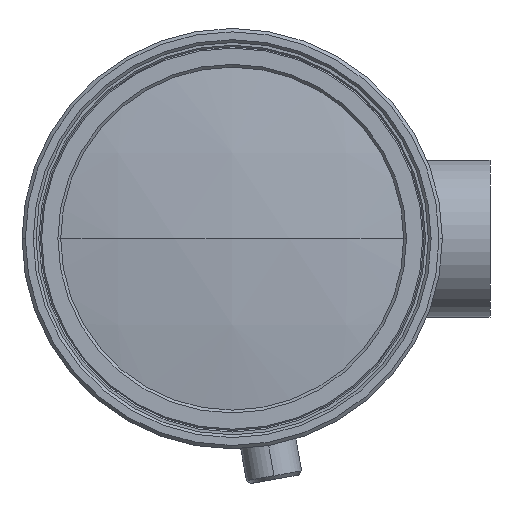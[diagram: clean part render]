
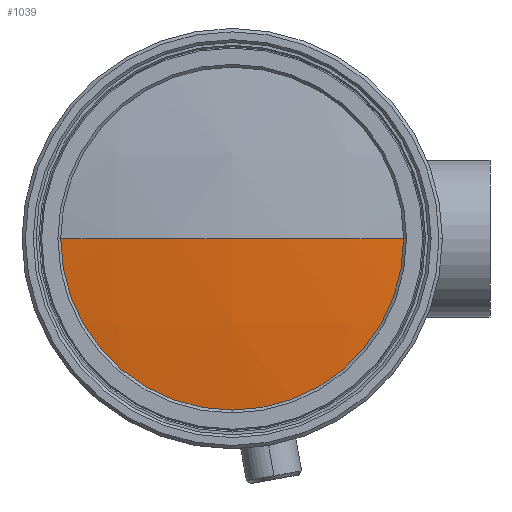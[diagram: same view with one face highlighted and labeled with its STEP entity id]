
A CAD part, left-side view. The second image highlights one B-rep face of the part: STEP entity #1039.
In plain terms, the highlighted spherical face has radius 95.7 mm.
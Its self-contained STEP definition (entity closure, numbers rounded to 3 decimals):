
#56 = CARTESIAN_POINT ( 'NONE',  ( -13.505, 0., 0. ) ) ;
#298 = VERTEX_POINT ( 'NONE', #574 ) ;
#315 = DIRECTION ( 'NONE',  ( -1., 0., 0. ) ) ;
#347 = DIRECTION ( 'NONE',  ( 0., 1., 0. ) ) ;
#355 = DIRECTION ( 'NONE',  ( 1., 0., 0. ) ) ;
#376 = CARTESIAN_POINT ( 'NONE',  ( -107.974, 0., 0. ) ) ;
#400 = DIRECTION ( 'NONE',  ( 0., -1., 0. ) ) ;
#424 = DIRECTION ( 'NONE',  ( 0., 0., 1. ) ) ;
#463 = CARTESIAN_POINT ( 'NONE',  ( -13.505, 0., 0. ) ) ;
#568 = CARTESIAN_POINT ( 'NONE',  ( -107.974, 15.3, 0. ) ) ;
#574 = CARTESIAN_POINT ( 'NONE',  ( -107.974, -15.3, 0. ) ) ;
#611 = EDGE_CURVE ( 'NONE', #1553, #298, #970, .T. ) ;
#624 = AXIS2_PLACEMENT_3D ( 'NONE', #2734, #2791, #2763 ) ;
#646 = EDGE_LOOP ( 'NONE', ( #3448, #3302, #963 ) ) ;
#713 = CIRCLE ( 'NONE', #3147, 15.3 ) ;
#963 = ORIENTED_EDGE ( 'NONE', *, *, #1147, .F. ) ;
#970 = CIRCLE ( 'NONE', #3173, 95.7 ) ;
#1039 = ADVANCED_FACE ( 'NONE', ( #2518 ), #3305, .T. ) ;
#1102 = CARTESIAN_POINT ( 'NONE',  ( -109.205, 0., 0. ) ) ;
#1147 = EDGE_CURVE ( 'NONE', #298, #3369, #713, .T. ) ;
#1519 = AXIS2_PLACEMENT_3D ( 'NONE', #56, #1960, #315 ) ;
#1553 = VERTEX_POINT ( 'NONE', #1102 ) ;
#1960 = DIRECTION ( 'NONE',  ( 0., 0., -1. ) ) ;
#2131 = CIRCLE ( 'NONE', #1519, 95.7 ) ;
#2518 = FACE_OUTER_BOUND ( 'NONE', #646, .T. ) ;
#2641 = EDGE_CURVE ( 'NONE', #1553, #3369, #2131, .T. ) ;
#2734 = CARTESIAN_POINT ( 'NONE',  ( -13.505, 0., 0. ) ) ;
#2763 = DIRECTION ( 'NONE',  ( 0., 1., 0. ) ) ;
#2791 = DIRECTION ( 'NONE',  ( 0., 0., 1. ) ) ;
#3147 = AXIS2_PLACEMENT_3D ( 'NONE', #376, #355, #347 ) ;
#3173 = AXIS2_PLACEMENT_3D ( 'NONE', #463, #424, #400 ) ;
#3302 = ORIENTED_EDGE ( 'NONE', *, *, #2641, .T. ) ;
#3305 = SPHERICAL_SURFACE ( 'NONE', #624, 95.7 ) ;
#3369 = VERTEX_POINT ( 'NONE', #568 ) ;
#3448 = ORIENTED_EDGE ( 'NONE', *, *, #611, .F. ) ;
